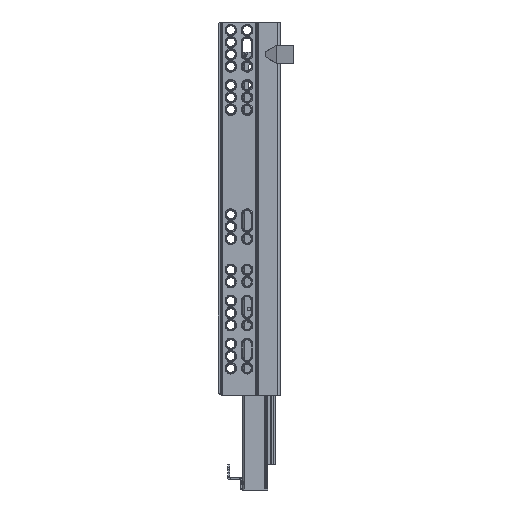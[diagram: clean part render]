
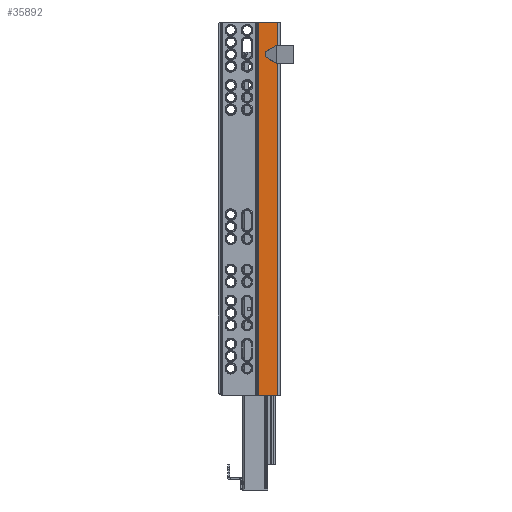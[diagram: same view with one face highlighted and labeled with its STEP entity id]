
A CAD part, left-side view. The second image highlights one B-rep face of the part: STEP entity #35892.
In plain terms, the highlighted planar face has unit normal (-1, 0, 0) as drawn and (1, 0, 0) by its records, which use the part's own axes.
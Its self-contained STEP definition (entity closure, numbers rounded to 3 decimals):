
#1407 = CARTESIAN_POINT ( 'NONE',  ( 35.7, -197.454, 118.962 ) ) ;
#1589 = CARTESIAN_POINT ( 'NONE',  ( 35.7, -9.9, 541. ) ) ;
#2316 = DIRECTION ( 'NONE',  ( 0., -0.902, -0.432 ) ) ;
#2523 = ORIENTED_EDGE ( 'NONE', *, *, #14847, .T. ) ;
#3718 = CARTESIAN_POINT ( 'NONE',  ( 35.7, -3.519, 21.886 ) ) ;
#3987 = VERTEX_POINT ( 'NONE', #44204 ) ;
#5346 = CARTESIAN_POINT ( 'NONE',  ( 35.7, 4.6, 541. ) ) ;
#5576 = VECTOR ( 'NONE', #52154, 1000. ) ;
#6588 = VECTOR ( 'NONE', #35125, 1000. ) ;
#6906 = VECTOR ( 'NONE', #2316, 1000. ) ;
#7458 = CARTESIAN_POINT ( 'NONE',  ( 35.7, -9.9, 277. ) ) ;
#7835 = ORIENTED_EDGE ( 'NONE', *, *, #50705, .T. ) ;
#7908 = ORIENTED_EDGE ( 'NONE', *, *, #22590, .T. ) ;
#8735 = LINE ( 'NONE', #1589, #31604 ) ;
#8779 = ORIENTED_EDGE ( 'NONE', *, *, #43495, .T. ) ;
#8792 = VECTOR ( 'NONE', #24995, 1000. ) ;
#9033 = VERTEX_POINT ( 'NONE', #24981 ) ;
#10432 = VERTEX_POINT ( 'NONE', #35740 ) ;
#12185 = CARTESIAN_POINT ( 'NONE',  ( 35.7, 4.6, 277. ) ) ;
#12392 = DIRECTION ( 'NONE',  ( 0., 1., 0. ) ) ;
#12745 = VECTOR ( 'NONE', #44266, 1000. ) ;
#13171 = CARTESIAN_POINT ( 'NONE',  ( 35.7, 4.6, 0. ) ) ;
#13308 = EDGE_CURVE ( 'NONE', #47537, #33083, #36086, .T. ) ;
#14847 = EDGE_CURVE ( 'NONE', #44764, #10432, #32265, .T. ) ;
#14918 = EDGE_CURVE ( 'NONE', #9033, #36546, #46837, .T. ) ;
#17849 = LINE ( 'NONE', #49094, #8792 ) ;
#18086 = CARTESIAN_POINT ( 'NONE',  ( 35.7, -2.868, 25.138 ) ) ;
#20975 = CARTESIAN_POINT ( 'NONE',  ( 35.7, -9.9, 18.831 ) ) ;
#21011 = EDGE_CURVE ( 'NONE', #36546, #3987, #45651, .T. ) ;
#21134 = ORIENTED_EDGE ( 'NONE', *, *, #38334, .F. ) ;
#22235 = CARTESIAN_POINT ( 'NONE',  ( 35.7, -4.636, 26.649 ) ) ;
#22590 = EDGE_CURVE ( 'NONE', #3987, #26181, #29870, .T. ) ;
#23647 = CARTESIAN_POINT ( 'NONE',  ( 35.7, 205.273, 121.847 ) ) ;
#24071 = AXIS2_PLACEMENT_3D ( 'NONE', #5346, #36309, #12392 ) ;
#24261 = EDGE_LOOP ( 'NONE', ( #35947, #7835, #28922, #30968, #7908, #8779, #2523, #51521, #21134 ) ) ;
#24749 = EDGE_CURVE ( 'NONE', #10432, #51270, #37073, .T. ) ;
#24981 = CARTESIAN_POINT ( 'NONE',  ( 35.7, -9.9, 29.169 ) ) ;
#24995 = DIRECTION ( 'NONE',  ( 0., 0., -1. ) ) ;
#26181 = VERTEX_POINT ( 'NONE', #37487 ) ;
#27654 = CARTESIAN_POINT ( 'NONE',  ( 35.7, -2.868, 22.862 ) ) ;
#27881 = CARTESIAN_POINT ( 'NONE',  ( 35.7, -4.636, 26.649 ) ) ;
#28627 = CARTESIAN_POINT ( 'NONE',  ( 35.7, 4.559, 277. ) ) ;
#28922 = ORIENTED_EDGE ( 'NONE', *, *, #14918, .T. ) ;
#29239 = PLANE ( 'NONE',  #24071 ) ;
#29870 =( BOUNDED_CURVE ( )  B_SPLINE_CURVE ( 3, ( #51818, #27654, #3718, #34707 ),
 .UNSPECIFIED., .F., .F. ) 
 B_SPLINE_CURVE_WITH_KNOTS ( ( 4, 4 ),
 ( 0., 1.082 ),
 .UNSPECIFIED. ) 
 CURVE ( )  GEOMETRIC_REPRESENTATION_ITEM ( )  RATIONAL_B_SPLINE_CURVE ( ( 1., 0.905, 0.905, 1. ) ) 
 REPRESENTATION_ITEM ( '' )  );
#30968 = ORIENTED_EDGE ( 'NONE', *, *, #21011, .T. ) ;
#31604 = VECTOR ( 'NONE', #49674, 1000. ) ;
#32265 = LINE ( 'NONE', #52014, #6588 ) ;
#33083 = VERTEX_POINT ( 'NONE', #7458 ) ;
#34707 = CARTESIAN_POINT ( 'NONE',  ( 35.7, -4.636, 21.351 ) ) ;
#35125 = DIRECTION ( 'NONE',  ( 0., 0., -1. ) ) ;
#35740 = CARTESIAN_POINT ( 'NONE',  ( 35.7, -9.9, 0. ) ) ;
#35892 = ADVANCED_FACE ( 'NONE', ( #46641 ), #29239, .T. ) ;
#35947 = ORIENTED_EDGE ( 'NONE', *, *, #13308, .T. ) ;
#36086 = LINE ( 'NONE', #12185, #43084 ) ;
#36309 = DIRECTION ( 'NONE',  ( 1., 0., 0. ) ) ;
#36546 = VERTEX_POINT ( 'NONE', #22235 ) ;
#37073 = LINE ( 'NONE', #13171, #12745 ) ;
#37487 = CARTESIAN_POINT ( 'NONE',  ( 35.7, -4.636, 21.351 ) ) ;
#38334 = EDGE_CURVE ( 'NONE', #47537, #51270, #17849, .T. ) ;
#42060 = CARTESIAN_POINT ( 'NONE',  ( 35.7, -3.519, 26.114 ) ) ;
#43084 = VECTOR ( 'NONE', #43241, 1000. ) ;
#43241 = DIRECTION ( 'NONE',  ( 0., -1., 0. ) ) ;
#43495 = EDGE_CURVE ( 'NONE', #26181, #44764, #54924, .T. ) ;
#44204 = CARTESIAN_POINT ( 'NONE',  ( 35.7, -2.868, 24. ) ) ;
#44266 = DIRECTION ( 'NONE',  ( 0., 1., 0. ) ) ;
#44764 = VERTEX_POINT ( 'NONE', #20975 ) ;
#45102 = CARTESIAN_POINT ( 'NONE',  ( 35.7, 4.559, 0. ) ) ;
#45651 =( BOUNDED_CURVE ( )  B_SPLINE_CURVE ( 3, ( #27881, #42060, #18086, #49338 ),
 .UNSPECIFIED., .F., .F. ) 
 B_SPLINE_CURVE_WITH_KNOTS ( ( 4, 4 ),
 ( 5.201, 6.283 ),
 .UNSPECIFIED. ) 
 CURVE ( )  GEOMETRIC_REPRESENTATION_ITEM ( )  RATIONAL_B_SPLINE_CURVE ( ( 1., 0.905, 0.905, 1. ) ) 
 REPRESENTATION_ITEM ( '' )  );
#46641 = FACE_OUTER_BOUND ( 'NONE', #24261, .T. ) ;
#46837 = LINE ( 'NONE', #1407, #5576 ) ;
#47537 = VERTEX_POINT ( 'NONE', #28627 ) ;
#49094 = CARTESIAN_POINT ( 'NONE',  ( 35.7, 4.559, 541. ) ) ;
#49338 = CARTESIAN_POINT ( 'NONE',  ( 35.7, -2.868, 24. ) ) ;
#49674 = DIRECTION ( 'NONE',  ( 0., 0., -1. ) ) ;
#50705 = EDGE_CURVE ( 'NONE', #33083, #9033, #8735, .T. ) ;
#51270 = VERTEX_POINT ( 'NONE', #45102 ) ;
#51521 = ORIENTED_EDGE ( 'NONE', *, *, #24749, .T. ) ;
#51818 = CARTESIAN_POINT ( 'NONE',  ( 35.7, -2.868, 24. ) ) ;
#52014 = CARTESIAN_POINT ( 'NONE',  ( 35.7, -9.9, 541. ) ) ;
#52154 = DIRECTION ( 'NONE',  ( 0., 0.902, -0.432 ) ) ;
#54924 = LINE ( 'NONE', #23647, #6906 ) ;
